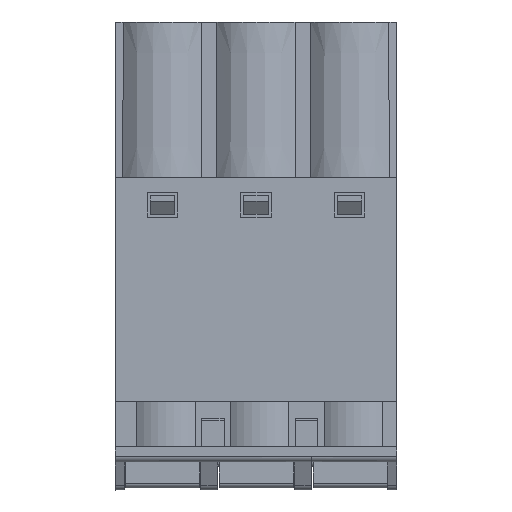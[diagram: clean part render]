
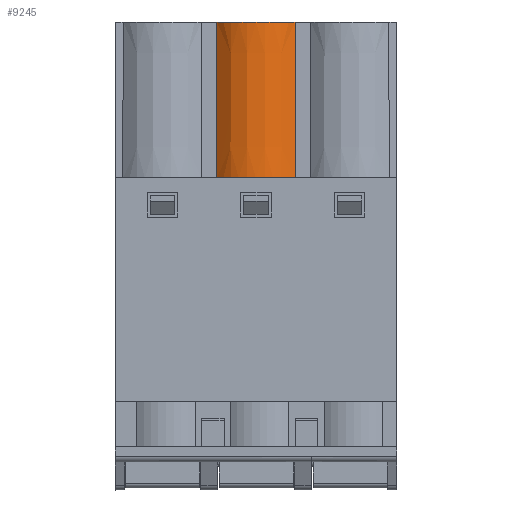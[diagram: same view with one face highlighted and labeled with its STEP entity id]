
A CAD part, left-side view. The second image highlights one B-rep face of the part: STEP entity #9245.
In plain terms, the highlighted conical face has half-angle 0.3 degrees and reference radius 2.816 mm.
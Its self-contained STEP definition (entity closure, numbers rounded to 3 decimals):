
#128 = PLANE('',#129);
#129 = AXIS2_PLACEMENT_3D('',#130,#131,#132);
#130 = CARTESIAN_POINT('',(8.522,12.8,0.));
#131 = DIRECTION('',(-0.,0.,1.));
#132 = DIRECTION('',(1.,0.,0.));
#3582 = PLANE('',#3583);
#3583 = AXIS2_PLACEMENT_3D('',#3584,#3585,#3586);
#3584 = CARTESIAN_POINT('',(3.5,12.8,-8.35));
#3585 = DIRECTION('',(0.,0.,1.));
#3586 = DIRECTION('',(1.,0.,0.));
#9124 = PLANE('',#9125);
#9125 = AXIS2_PLACEMENT_3D('',#9126,#9127,#9128);
#9126 = CARTESIAN_POINT('',(6.522,15.3,
    -4.175));
#9127 = DIRECTION('',(-1.,0.,0.005));
#9128 = DIRECTION('',(0.,1.,0.));
#9170 = VERTEX_POINT('',#9171);
#9171 = CARTESIAN_POINT('',(6.5,14.9,-8.35));
#9192 = EDGE_CURVE('',#9170,#9193,#9195,.T.);
#9193 = VERTEX_POINT('',#9194);
#9194 = CARTESIAN_POINT('',(6.544,14.881,
    0.));
#9195 = SURFACE_CURVE('',#9196,(#9203,#9213),.PCURVE_S1.);
#9196 = B_SPLINE_CURVE_WITH_KNOTS('',3,(#9197,#9198,#9199,#9200,#9201,
    #9202),.UNSPECIFIED.,.F.,.F.,(4,1,1,4),(0.,0.333,
    0.667,1.),.UNSPECIFIED.);
#9197 = CARTESIAN_POINT('',(6.5,14.9,-8.35));
#9198 = CARTESIAN_POINT('',(6.505,14.898,
    -7.422));
#9199 = CARTESIAN_POINT('',(6.515,14.894,-5.567)
  );
#9200 = CARTESIAN_POINT('',(6.529,14.887,
    -2.784));
#9201 = CARTESIAN_POINT('',(6.539,14.883,
    -0.928));
#9202 = CARTESIAN_POINT('',(6.544,14.881,0.));
#9203 = PCURVE('',#9124,#9204);
#9204 = DEFINITIONAL_REPRESENTATION('',(#9205),#9212);
#9205 = B_SPLINE_CURVE_WITH_KNOTS('',3,(#9206,#9207,#9208,#9209,#9210,
    #9211),.UNSPECIFIED.,.F.,.F.,(4,1,1,4),(0.,0.333,
    0.667,1.),.UNSPECIFIED.);
#9206 = CARTESIAN_POINT('',(-0.4,4.175));
#9207 = CARTESIAN_POINT('',(-0.402,3.247));
#9208 = CARTESIAN_POINT('',(-0.406,1.392));
#9209 = CARTESIAN_POINT('',(-0.413,-1.391));
#9210 = CARTESIAN_POINT('',(-0.417,-3.247));
#9211 = CARTESIAN_POINT('',(-0.419,-4.175));
#9212 = ( GEOMETRIC_REPRESENTATION_CONTEXT(2) 
PARAMETRIC_REPRESENTATION_CONTEXT() REPRESENTATION_CONTEXT('2D SPACE',''
  ) );
#9213 = PCURVE('',#9214,#9219);
#9214 = CONICAL_SURFACE('',#9215,2.816,0.005);
#9215 = AXIS2_PLACEMENT_3D('',#9216,#9217,#9218);
#9216 = CARTESIAN_POINT('',(8.5,12.8,7.647
    ));
#9217 = DIRECTION('',(0.,0.,-1.));
#9218 = DIRECTION('',(1.,0.,0.));
#9219 = DEFINITIONAL_REPRESENTATION('',(#9220),#9223);
#9220 = B_SPLINE_CURVE_WITH_KNOTS('',1,(#9221,#9222),.UNSPECIFIED.,.F.,
  .F.,(2,2),(0.,1.),.PIECEWISE_BEZIER_KNOTS.);
#9221 = CARTESIAN_POINT('',(3.951,15.997));
#9222 = CARTESIAN_POINT('',(3.958,7.647));
#9223 = ( GEOMETRIC_REPRESENTATION_CONTEXT(2) 
PARAMETRIC_REPRESENTATION_CONTEXT() REPRESENTATION_CONTEXT('2D SPACE',''
  ) );
#9245 = ADVANCED_FACE('',(#9246),#9214,.T.);
#9246 = FACE_BOUND('',#9247,.T.);
#9247 = EDGE_LOOP('',(#9248,#9283,#9309,#9310));
#9248 = ORIENTED_EDGE('',*,*,#9249,.T.);
#9249 = EDGE_CURVE('',#9250,#9252,#9254,.T.);
#9250 = VERTEX_POINT('',#9251);
#9251 = CARTESIAN_POINT('',(6.5,10.7,
    -8.35));
#9252 = VERTEX_POINT('',#9253);
#9253 = CARTESIAN_POINT('',(6.544,10.719,
    0.));
#9254 = SURFACE_CURVE('',#9255,(#9262,#9268),.PCURVE_S1.);
#9255 = B_SPLINE_CURVE_WITH_KNOTS('',3,(#9256,#9257,#9258,#9259,#9260,
    #9261),.UNSPECIFIED.,.F.,.F.,(4,1,1,4),(0.,0.333,
    0.667,1.),.UNSPECIFIED.);
#9256 = CARTESIAN_POINT('',(6.5,10.7,
    -8.35));
#9257 = CARTESIAN_POINT('',(6.505,10.702,
    -7.422));
#9258 = CARTESIAN_POINT('',(6.515,10.706,
    -5.567));
#9259 = CARTESIAN_POINT('',(6.529,10.713,
    -2.784));
#9260 = CARTESIAN_POINT('',(6.539,10.717,-0.928
    ));
#9261 = CARTESIAN_POINT('',(6.544,10.719,
    0.));
#9262 = PCURVE('',#9214,#9263);
#9263 = DEFINITIONAL_REPRESENTATION('',(#9264),#9267);
#9264 = B_SPLINE_CURVE_WITH_KNOTS('',1,(#9265,#9266),.UNSPECIFIED.,.F.,
  .F.,(2,2),(0.,1.),.PIECEWISE_BEZIER_KNOTS.);
#9265 = CARTESIAN_POINT('',(2.332,15.997));
#9266 = CARTESIAN_POINT('',(2.325,7.647));
#9267 = ( GEOMETRIC_REPRESENTATION_CONTEXT(2) 
PARAMETRIC_REPRESENTATION_CONTEXT() REPRESENTATION_CONTEXT('2D SPACE',''
  ) );
#9268 = PCURVE('',#9269,#9274);
#9269 = PLANE('',#9270);
#9270 = AXIS2_PLACEMENT_3D('',#9271,#9272,#9273);
#9271 = CARTESIAN_POINT('',(6.522,10.3,
    -4.175));
#9272 = DIRECTION('',(-1.,0.,0.005));
#9273 = DIRECTION('',(0.,1.,0.));
#9274 = DEFINITIONAL_REPRESENTATION('',(#9275),#9282);
#9275 = B_SPLINE_CURVE_WITH_KNOTS('',3,(#9276,#9277,#9278,#9279,#9280,
    #9281),.UNSPECIFIED.,.F.,.F.,(4,1,1,4),(0.,0.333,
    0.667,1.),.UNSPECIFIED.);
#9276 = CARTESIAN_POINT('',(0.4,4.175));
#9277 = CARTESIAN_POINT('',(0.402,3.247));
#9278 = CARTESIAN_POINT('',(0.406,1.392));
#9279 = CARTESIAN_POINT('',(0.413,-1.391));
#9280 = CARTESIAN_POINT('',(0.417,-3.247));
#9281 = CARTESIAN_POINT('',(0.419,-4.175));
#9282 = ( GEOMETRIC_REPRESENTATION_CONTEXT(2) 
PARAMETRIC_REPRESENTATION_CONTEXT() REPRESENTATION_CONTEXT('2D SPACE',''
  ) );
#9283 = ORIENTED_EDGE('',*,*,#9284,.T.);
#9284 = EDGE_CURVE('',#9252,#9193,#9285,.T.);
#9285 = SURFACE_CURVE('',#9286,(#9291,#9298),.PCURVE_S1.);
#9286 = CIRCLE('',#9287,2.856);
#9287 = AXIS2_PLACEMENT_3D('',#9288,#9289,#9290);
#9288 = CARTESIAN_POINT('',(8.5,12.8,
    0.));
#9289 = DIRECTION('',(0.,0.,-1.));
#9290 = DIRECTION('',(-0.685,-0.729,0.
    ));
#9291 = PCURVE('',#9214,#9292);
#9292 = DEFINITIONAL_REPRESENTATION('',(#9293),#9297);
#9293 = LINE('',#9294,#9295);
#9294 = CARTESIAN_POINT('',(2.325,7.647));
#9295 = VECTOR('',#9296,1.);
#9296 = DIRECTION('',(1.,0.));
#9297 = ( GEOMETRIC_REPRESENTATION_CONTEXT(2) 
PARAMETRIC_REPRESENTATION_CONTEXT() REPRESENTATION_CONTEXT('2D SPACE',''
  ) );
#9298 = PCURVE('',#128,#9299);
#9299 = DEFINITIONAL_REPRESENTATION('',(#9300),#9308);
#9300 = ( BOUNDED_CURVE() B_SPLINE_CURVE(2,(#9301,#9302,#9303,#9304,
#9305,#9306,#9307),.UNSPECIFIED.,.T.,.F.) B_SPLINE_CURVE_WITH_KNOTS((1,2
    ,2,2,2,1),(-2.094,0.,2.094,4.189,
6.283,8.378),.UNSPECIFIED.) CURVE() 
GEOMETRIC_REPRESENTATION_ITEM() RATIONAL_B_SPLINE_CURVE((1.,0.5,1.,0.5,
1.,0.5,1.)) REPRESENTATION_ITEM('') );
#9301 = CARTESIAN_POINT('',(-1.978,-2.081));
#9302 = CARTESIAN_POINT('',(-5.583,1.307));
#9303 = CARTESIAN_POINT('',(-0.846,2.735));
#9304 = CARTESIAN_POINT('',(3.891,4.162));
#9305 = CARTESIAN_POINT('',(2.759,-0.654));
#9306 = CARTESIAN_POINT('',(1.627,-5.47));
#9307 = CARTESIAN_POINT('',(-1.978,-2.081));
#9308 = ( GEOMETRIC_REPRESENTATION_CONTEXT(2) 
PARAMETRIC_REPRESENTATION_CONTEXT() REPRESENTATION_CONTEXT('2D SPACE',''
  ) );
#9309 = ORIENTED_EDGE('',*,*,#9192,.F.);
#9310 = ORIENTED_EDGE('',*,*,#9311,.T.);
#9311 = EDGE_CURVE('',#9170,#9250,#9312,.T.);
#9312 = SURFACE_CURVE('',#9313,(#9318,#9325),.PCURVE_S1.);
#9313 = CIRCLE('',#9314,2.9);
#9314 = AXIS2_PLACEMENT_3D('',#9315,#9316,#9317);
#9315 = CARTESIAN_POINT('',(8.5,12.8,
    -8.35));
#9316 = DIRECTION('',(0.,0.,1.));
#9317 = DIRECTION('',(-0.69,0.724,-0.));
#9318 = PCURVE('',#9214,#9319);
#9319 = DEFINITIONAL_REPRESENTATION('',(#9320),#9324);
#9320 = LINE('',#9321,#9322);
#9321 = CARTESIAN_POINT('',(3.951,15.997));
#9322 = VECTOR('',#9323,1.);
#9323 = DIRECTION('',(-1.,0.));
#9324 = ( GEOMETRIC_REPRESENTATION_CONTEXT(2) 
PARAMETRIC_REPRESENTATION_CONTEXT() REPRESENTATION_CONTEXT('2D SPACE',''
  ) );
#9325 = PCURVE('',#3582,#9326);
#9326 = DEFINITIONAL_REPRESENTATION('',(#9327),#9331);
#9327 = CIRCLE('',#9328,2.9);
#9328 = AXIS2_PLACEMENT_2D('',#9329,#9330);
#9329 = CARTESIAN_POINT('',(5.,0.));
#9330 = DIRECTION('',(-0.69,0.724));
#9331 = ( GEOMETRIC_REPRESENTATION_CONTEXT(2) 
PARAMETRIC_REPRESENTATION_CONTEXT() REPRESENTATION_CONTEXT('2D SPACE',''
  ) );
